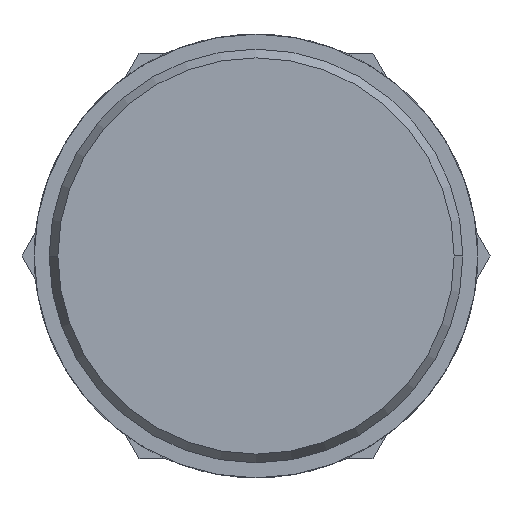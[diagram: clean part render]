
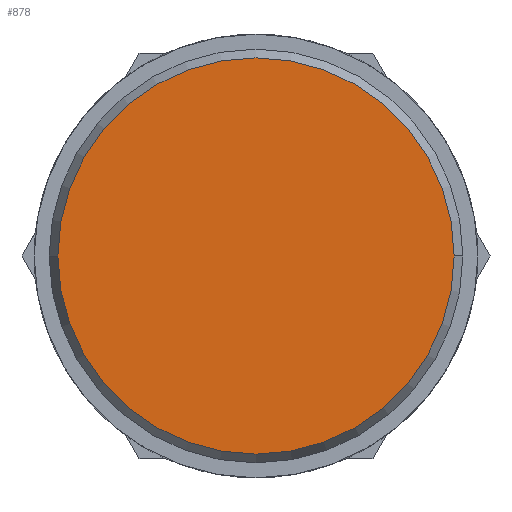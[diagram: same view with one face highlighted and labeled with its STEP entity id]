
A CAD part, left-side view. The second image highlights one B-rep face of the part: STEP entity #878.
In plain terms, the highlighted planar face has unit normal (-1, 0, 0).
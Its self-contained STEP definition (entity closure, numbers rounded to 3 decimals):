
#1 = DIRECTION ( 'NONE',  ( 0., 1., 0. ) ) ;
#20 = VERTEX_POINT ( 'NONE', #776 ) ;
#63 = EDGE_CURVE ( 'NONE', #20, #1074, #140, .T. ) ;
#95 = AXIS2_PLACEMENT_3D ( 'NONE', #271, #352, #129 ) ;
#129 = DIRECTION ( 'NONE',  ( 0., 1., 0. ) ) ;
#140 = CIRCLE ( 'NONE', #95, 13.2 ) ;
#143 = DIRECTION ( 'NONE',  ( 1., 0., 0. ) ) ;
#152 = AXIS2_PLACEMENT_3D ( 'NONE', #317, #143, #1 ) ;
#271 = CARTESIAN_POINT ( 'NONE',  ( 0., 0., 0. ) ) ;
#308 = CIRCLE ( 'NONE', #152, 13.2 ) ;
#317 = CARTESIAN_POINT ( 'NONE',  ( 0., 0., 0. ) ) ;
#352 = DIRECTION ( 'NONE',  ( 1., 0., 0. ) ) ;
#412 = AXIS2_PLACEMENT_3D ( 'NONE', #656, #957, #953 ) ;
#493 = ORIENTED_EDGE ( 'NONE', *, *, #689, .F. ) ;
#529 = CARTESIAN_POINT ( 'NONE',  ( 0., 13.2, 0. ) ) ;
#567 = FACE_OUTER_BOUND ( 'NONE', #997, .T. ) ;
#656 = CARTESIAN_POINT ( 'NONE',  ( 0., 0., 0. ) ) ;
#689 = EDGE_CURVE ( 'NONE', #1074, #20, #308, .T. ) ;
#770 = ORIENTED_EDGE ( 'NONE', *, *, #63, .F. ) ;
#776 = CARTESIAN_POINT ( 'NONE',  ( 0., -13.2, 0. ) ) ;
#878 = ADVANCED_FACE ( 'NONE', ( #567 ), #979, .T. ) ;
#953 = DIRECTION ( 'NONE',  ( 0., -1., 0. ) ) ;
#957 = DIRECTION ( 'NONE',  ( -1., 0., 0. ) ) ;
#979 = PLANE ( 'NONE',  #412 ) ;
#997 = EDGE_LOOP ( 'NONE', ( #493, #770 ) ) ;
#1074 = VERTEX_POINT ( 'NONE', #529 ) ;
